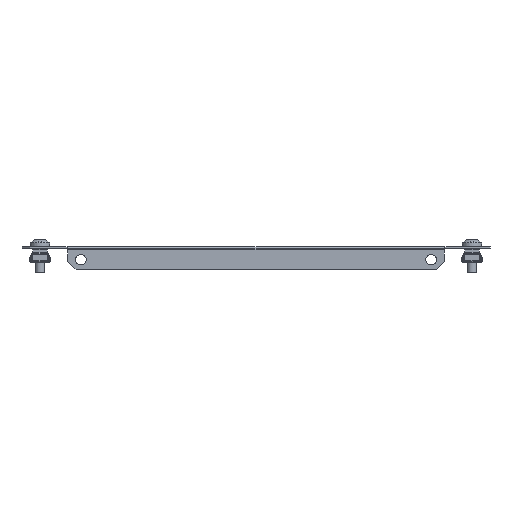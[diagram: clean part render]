
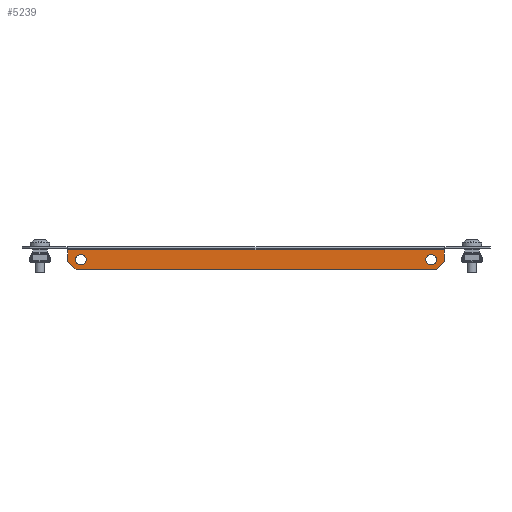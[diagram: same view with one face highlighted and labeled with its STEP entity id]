
A CAD part, front view. The second image highlights one B-rep face of the part: STEP entity #5239.
In plain terms, the highlighted planar face has unit normal (0, -1, 0).
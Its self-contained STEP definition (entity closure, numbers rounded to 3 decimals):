
#124 = ORIENTED_EDGE ( 'NONE', *, *, #1336, .F. ) ;
#129 = AXIS2_PLACEMENT_3D ( 'NONE', #5632, #1853, #5084 ) ;
#206 = ORIENTED_EDGE ( 'NONE', *, *, #6158, .T. ) ;
#254 = ORIENTED_EDGE ( 'NONE', *, *, #3333, .T. ) ;
#548 = CARTESIAN_POINT ( 'NONE',  ( -107., -299.5, -4.75 ) ) ;
#580 = FACE_BOUND ( 'NONE', #754, .T. ) ;
#693 = CIRCLE ( 'NONE', #3870, 3.25 ) ;
#754 = EDGE_LOOP ( 'NONE', ( #124 ) ) ;
#767 = CARTESIAN_POINT ( 'NONE',  ( 115., -299.5, -9. ) ) ;
#1124 = VERTEX_POINT ( 'NONE', #767 ) ;
#1127 = CARTESIAN_POINT ( 'NONE',  ( 115., -299.5, 0. ) ) ;
#1193 = FACE_BOUND ( 'NONE', #2211, .T. ) ;
#1310 = LINE ( 'NONE', #7645, #7860 ) ;
#1316 = LINE ( 'NONE', #4530, #6871 ) ;
#1336 = EDGE_CURVE ( 'NONE', #4253, #4253, #5703, .T. ) ;
#1346 = VECTOR ( 'NONE', #1503, 1000. ) ;
#1503 = DIRECTION ( 'NONE',  ( 0., 0., -1. ) ) ;
#1618 = VERTEX_POINT ( 'NONE', #548 ) ;
#1853 = DIRECTION ( 'NONE',  ( 0., -1., 0. ) ) ;
#2096 = VERTEX_POINT ( 'NONE', #2798 ) ;
#2137 = DIRECTION ( 'NONE',  ( 0., -1., 0. ) ) ;
#2179 = DIRECTION ( 'NONE',  ( 0., 0., 1. ) ) ;
#2211 = EDGE_LOOP ( 'NONE', ( #7013 ) ) ;
#2427 = EDGE_CURVE ( 'NONE', #2096, #4475, #1316, .T. ) ;
#2535 = FACE_OUTER_BOUND ( 'NONE', #7386, .T. ) ;
#2675 = DIRECTION ( 'NONE',  ( 0.707, 0., 0.707 ) ) ;
#2717 = LINE ( 'NONE', #6577, #3332 ) ;
#2734 = CARTESIAN_POINT ( 'NONE',  ( 110., -299.5, -14. ) ) ;
#2798 = CARTESIAN_POINT ( 'NONE',  ( -110., -299.5, -14. ) ) ;
#3332 = VECTOR ( 'NONE', #2675, 1000. ) ;
#3333 = EDGE_CURVE ( 'NONE', #6035, #2096, #6838, .T. ) ;
#3417 = CARTESIAN_POINT ( 'NONE',  ( -115., -299.5, 0. ) ) ;
#3475 = VECTOR ( 'NONE', #8138, 1000. ) ;
#3642 = VERTEX_POINT ( 'NONE', #5902 ) ;
#3699 = PLANE ( 'NONE',  #129 ) ;
#3870 = AXIS2_PLACEMENT_3D ( 'NONE', #4997, #7992, #2179 ) ;
#4253 = VERTEX_POINT ( 'NONE', #6792 ) ;
#4323 = DIRECTION ( 'NONE',  ( 0., 0., 1. ) ) ;
#4475 = VERTEX_POINT ( 'NONE', #2734 ) ;
#4530 = CARTESIAN_POINT ( 'NONE',  ( 0., -299.5, -14. ) ) ;
#4762 = LINE ( 'NONE', #3417, #1346 ) ;
#4997 = CARTESIAN_POINT ( 'NONE',  ( -107., -299.5, -8. ) ) ;
#5084 = DIRECTION ( 'NONE',  ( 0., 0., 1. ) ) ;
#5239 = ADVANCED_FACE ( 'NONE', ( #580, #1193, #2535 ), #3699, .T. ) ;
#5323 = CARTESIAN_POINT ( 'NONE',  ( 107., -299.5, -8. ) ) ;
#5328 = CARTESIAN_POINT ( 'NONE',  ( -115., -299.5, -2. ) ) ;
#5632 = CARTESIAN_POINT ( 'NONE',  ( 0., -299.5, 0. ) ) ;
#5703 = CIRCLE ( 'NONE', #7823, 3.25 ) ;
#5902 = CARTESIAN_POINT ( 'NONE',  ( 115., -299.5, -2. ) ) ;
#6035 = VERTEX_POINT ( 'NONE', #7265 ) ;
#6079 = VERTEX_POINT ( 'NONE', #5328 ) ;
#6158 = EDGE_CURVE ( 'NONE', #4475, #1124, #2717, .T. ) ;
#6458 = ORIENTED_EDGE ( 'NONE', *, *, #8181, .T. ) ;
#6488 = EDGE_CURVE ( 'NONE', #3642, #6079, #1310, .T. ) ;
#6577 = CARTESIAN_POINT ( 'NONE',  ( 62., -299.5, -62. ) ) ;
#6792 = CARTESIAN_POINT ( 'NONE',  ( 107., -299.5, -4.75 ) ) ;
#6838 = LINE ( 'NONE', #8094, #7543 ) ;
#6871 = VECTOR ( 'NONE', #7112, 1000. ) ;
#6986 = ORIENTED_EDGE ( 'NONE', *, *, #7618, .T. ) ;
#7013 = ORIENTED_EDGE ( 'NONE', *, *, #7925, .T. ) ;
#7093 = DIRECTION ( 'NONE',  ( -1., 0., 0. ) ) ;
#7112 = DIRECTION ( 'NONE',  ( 1., 0., 0. ) ) ;
#7139 = ORIENTED_EDGE ( 'NONE', *, *, #6488, .T. ) ;
#7265 = CARTESIAN_POINT ( 'NONE',  ( -115., -299.5, -9. ) ) ;
#7386 = EDGE_LOOP ( 'NONE', ( #7757, #206, #6986, #7139, #6458, #254 ) ) ;
#7504 = LINE ( 'NONE', #1127, #3475 ) ;
#7543 = VECTOR ( 'NONE', #7633, 1000. ) ;
#7618 = EDGE_CURVE ( 'NONE', #1124, #3642, #7504, .T. ) ;
#7633 = DIRECTION ( 'NONE',  ( 0.707, 0., -0.707 ) ) ;
#7645 = CARTESIAN_POINT ( 'NONE',  ( 0., -299.5, -2. ) ) ;
#7757 = ORIENTED_EDGE ( 'NONE', *, *, #2427, .T. ) ;
#7823 = AXIS2_PLACEMENT_3D ( 'NONE', #5323, #2137, #4323 ) ;
#7860 = VECTOR ( 'NONE', #7093, 1000. ) ;
#7925 = EDGE_CURVE ( 'NONE', #1618, #1618, #693, .T. ) ;
#7992 = DIRECTION ( 'NONE',  ( 0., 1., 0. ) ) ;
#8094 = CARTESIAN_POINT ( 'NONE',  ( -62., -299.5, -62. ) ) ;
#8138 = DIRECTION ( 'NONE',  ( 0., 0., 1. ) ) ;
#8181 = EDGE_CURVE ( 'NONE', #6079, #6035, #4762, .T. ) ;
